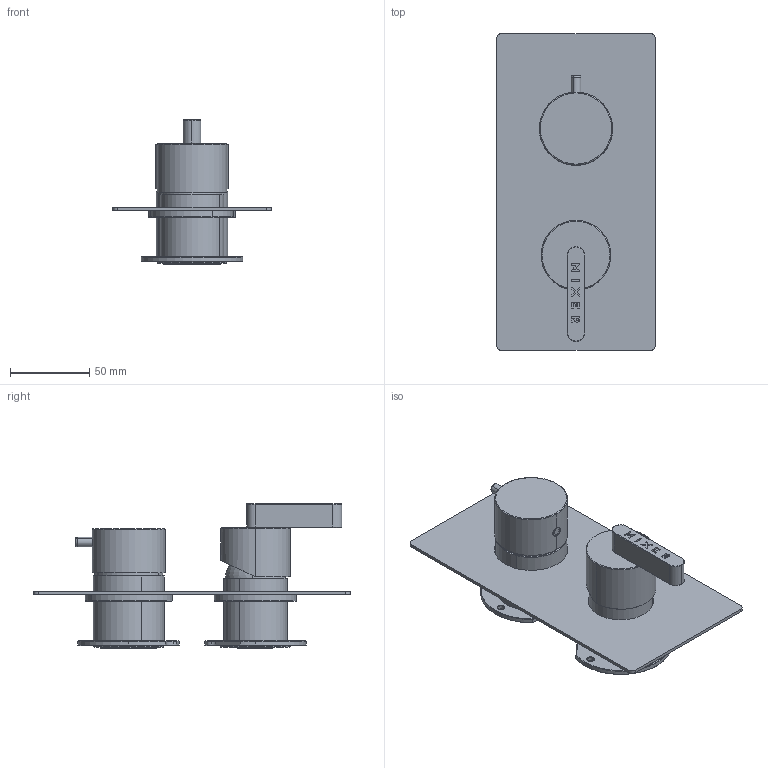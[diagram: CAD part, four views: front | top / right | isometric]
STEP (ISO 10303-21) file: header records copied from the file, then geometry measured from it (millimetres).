
FILE_DESCRIPTION (( 'STEP AP203' ), '1' );
FILE_NAME ('EMK3.STEP', '2024-01-10T09:59:41', ( '' ), ( '' ), 'SwSTEP 2.0', 'SolidWorks 2023', '' );
FILE_SCHEMA (( 'CONFIG_CONTROL_DESIGN' ));
Length unit declared in the file: millimetre
Products named in the file (32): C24.2033.00.0; C25.1355.00.0; AS816_00; C24.1967.00.0; C24.1831.00.0; C24.1830.00.0; C10.00.0015; C10.00.0005; C25.2056.00.0; EMK3; C11.14.0003; AS1080; C11.10.0045; C25.2055.00.0; C12.00.0058; C11.10.0025; C47.00.0015; C24.1835.00.0; C24.2035.00.0; C24.2156.00.0; C47.00.0016; C25.2694.00; C24.1836.00.1; AS746_01; C47.00.0023.01; C12.00.0057; C11.15.0006; C24.1837.00.0; AS747_00; C31.00.0006.01; AS745_00; C11.14.0009
Assembly tree (32 placements, depth 4):
  EMK3
    AS1080
      C25.2694.00
      C25.2055.00.0
      C25.2056.00.0
    AS745_00
      C24.1831.00.0
      C24.1836.00.1
      C10.00.0005
      C47.00.0016
      C24.1967.00.0
      C12.00.0058
      AS746_01
        C24.1835.00.0
        C24.2156.00.0
        C11.14.0009
        C25.1355.00.0
        C47.00.0023.01
        C11.10.0045
    AS747_00
      C47.00.0015
      C10.00.0015
      C24.1830.00.0
      C12.00.0057
      C24.1837.00.0
      C31.00.0006.01
    C47.00.0023.01
    C11.14.0003
    AS816_00
      C24.2035.00.0
      C11.15.0006
      C11.10.0025
      C24.2033.00.0
Bounding box: 100 x 200 x 91.2 mm (x, y, z)
Volume: 216107.5 mm3; surface area: 145086.7 mm2
Topology: 29 solids, 29 shells, 1187 faces, 2825 edges, 1761 vertices
Faces by surface type: cylinder 491, plane 350, cone 188, bspline 122, torus 36
Entity records: 40043 total; most frequent: CARTESIAN_POINT 9369, DIRECTION 6064, ORIENTED_EDGE 5510, EDGE_CURVE 2755, AXIS2_PLACEMENT_3D 2424, VERTEX_POINT 1723, CIRCLE 1335, EDGE_LOOP 1330
